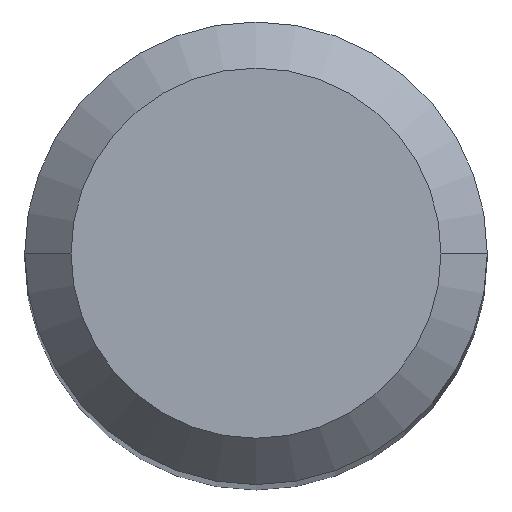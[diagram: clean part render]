
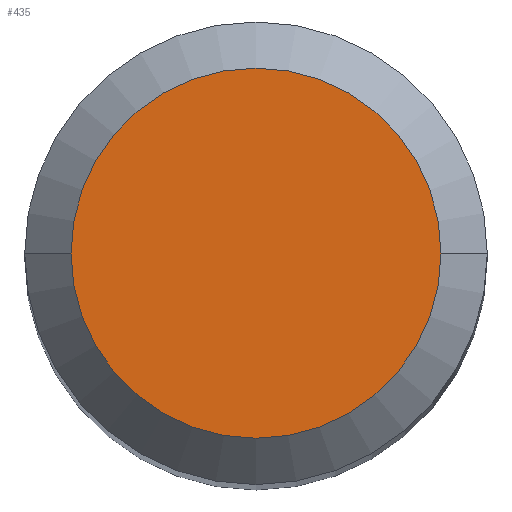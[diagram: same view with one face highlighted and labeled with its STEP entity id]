
A CAD part, top view. The second image highlights one B-rep face of the part: STEP entity #435.
In plain terms, the highlighted planar face has unit normal (0, 0, 1).
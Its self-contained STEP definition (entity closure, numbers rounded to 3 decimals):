
#40 = PLANE ( 'NONE',  #101 ) ;
#45 = CARTESIAN_POINT ( 'NONE',  ( 0., 2.4, 0. ) ) ;
#93 = DIRECTION ( 'NONE',  ( 0., 0., 1. ) ) ;
#101 = AXIS2_PLACEMENT_3D ( 'NONE', #45, #93, #340 ) ;
#115 = VERTEX_POINT ( 'NONE', #626 ) ;
#144 = AXIS2_PLACEMENT_3D ( 'NONE', #235, #459, #369 ) ;
#224 = ORIENTED_EDGE ( 'NONE', *, *, #402, .F. ) ;
#235 = CARTESIAN_POINT ( 'NONE',  ( 0., 0., 0. ) ) ;
#253 = CIRCLE ( 'NONE', #144, 2.4 ) ;
#280 = DIRECTION ( 'NONE',  ( 0., 0., -1. ) ) ;
#340 = DIRECTION ( 'NONE',  ( 1., 0., 0. ) ) ;
#342 = CARTESIAN_POINT ( 'NONE',  ( 0., 0., 0. ) ) ;
#369 = DIRECTION ( 'NONE',  ( -1., 0., 0. ) ) ;
#372 = VERTEX_POINT ( 'NONE', #438 ) ;
#395 = CIRCLE ( 'NONE', #571, 2.4 ) ;
#402 = EDGE_CURVE ( 'NONE', #115, #372, #395, .T. ) ;
#435 = ADVANCED_FACE ( 'NONE', ( #436 ), #40, .T. ) ;
#436 = FACE_OUTER_BOUND ( 'NONE', #598, .T. ) ;
#438 = CARTESIAN_POINT ( 'NONE',  ( -2.4, 0., 0. ) ) ;
#459 = DIRECTION ( 'NONE',  ( 0., 0., -1. ) ) ;
#478 = EDGE_CURVE ( 'NONE', #372, #115, #253, .T. ) ;
#515 = DIRECTION ( 'NONE',  ( -1., 0., 0. ) ) ;
#519 = ORIENTED_EDGE ( 'NONE', *, *, #478, .F. ) ;
#571 = AXIS2_PLACEMENT_3D ( 'NONE', #342, #280, #515 ) ;
#598 = EDGE_LOOP ( 'NONE', ( #519, #224 ) ) ;
#626 = CARTESIAN_POINT ( 'NONE',  ( 2.4, 0., 0. ) ) ;
